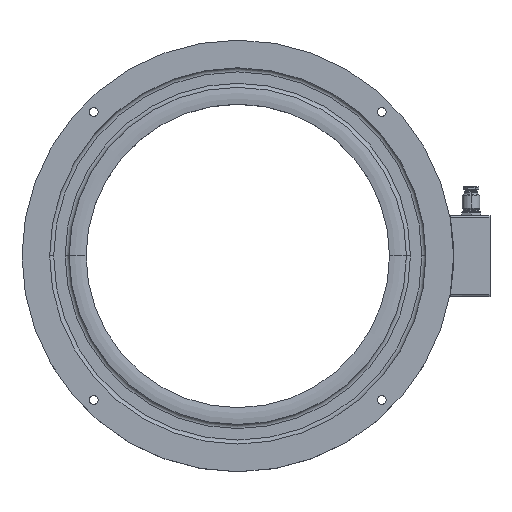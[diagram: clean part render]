
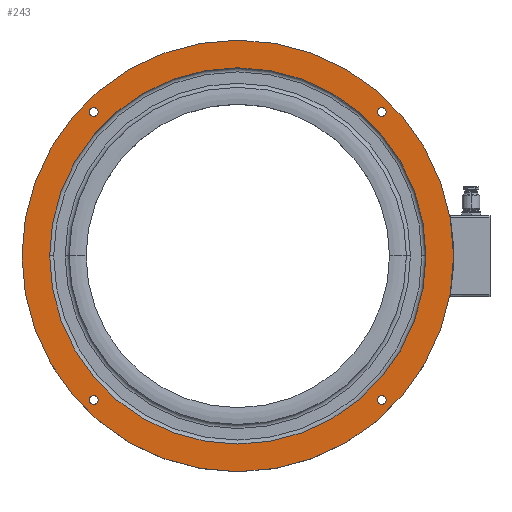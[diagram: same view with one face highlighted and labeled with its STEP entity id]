
A CAD part, top view. The second image highlights one B-rep face of the part: STEP entity #243.
In plain terms, the highlighted planar face has unit normal (0, 0, 1) as drawn and (0, 1, 0) by its records, which use the part's own axes.
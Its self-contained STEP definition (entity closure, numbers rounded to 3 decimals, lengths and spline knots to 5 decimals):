
#243=ADVANCED_FACE('0:66',(#510,#511,#512,#513,#514,#515),#516,.T.);
#510=FACE_OUTER_BOUND('',#841,.T.);
#511=FACE_BOUND('',#842,.T.);
#512=FACE_BOUND('',#843,.T.);
#513=FACE_BOUND('',#844,.T.);
#514=FACE_BOUND('',#845,.T.);
#515=FACE_BOUND('',#846,.T.);
#516=PLANE('',#847);
#841=EDGE_LOOP('',(#1270,#1271));
#842=EDGE_LOOP('',(#1272,#1273));
#843=EDGE_LOOP('',(#1274,#1275));
#844=EDGE_LOOP('',(#1276,#1277));
#845=EDGE_LOOP('',(#1278,#1279));
#846=EDGE_LOOP('',(#1280,#1281));
#847=AXIS2_PLACEMENT_3D('',#1282,#1283,#1284);
#1270=ORIENTED_EDGE('',*,*,#1944,.F.);
#1271=ORIENTED_EDGE('',*,*,#1999,.F.);
#1272=ORIENTED_EDGE('',*,*,#1964,.F.);
#1273=ORIENTED_EDGE('',*,*,#1990,.F.);
#1274=ORIENTED_EDGE('',*,*,#1969,.F.);
#1275=ORIENTED_EDGE('',*,*,#1987,.F.);
#1276=ORIENTED_EDGE('',*,*,#1974,.F.);
#1277=ORIENTED_EDGE('',*,*,#1984,.F.);
#1278=ORIENTED_EDGE('',*,*,#1979,.F.);
#1279=ORIENTED_EDGE('',*,*,#1981,.F.);
#1280=ORIENTED_EDGE('',*,*,#1927,.T.);
#1281=ORIENTED_EDGE('',*,*,#2006,.T.);
#1282=CARTESIAN_POINT('',(0.1395,0.05,0.0));
#1283=DIRECTION('',(0.,1.0,0.));
#1284=DIRECTION('',(1.0,0.0,0.));
#1927=EDGE_CURVE('0:132',#2247,#2244,#2248,.T.);
#1944=EDGE_CURVE('0:120',#2274,#2270,#2276,.T.);
#1964=EDGE_CURVE('0:99',#2306,#2302,#2308,.F.);
#1969=EDGE_CURVE('0:93',#2315,#2311,#2317,.F.);
#1974=EDGE_CURVE('0:87',#2324,#2320,#2326,.F.);
#1979=EDGE_CURVE('0:81',#2333,#2329,#2335,.F.);
#1981=EDGE_CURVE('',#2329,#2333,#2337,.F.);
#1984=EDGE_CURVE('',#2320,#2324,#2340,.F.);
#1987=EDGE_CURVE('',#2311,#2315,#2343,.F.);
#1990=EDGE_CURVE('',#2302,#2306,#2346,.F.);
#1999=EDGE_CURVE('',#2270,#2274,#2355,.T.);
#2006=EDGE_CURVE('',#2244,#2247,#2362,.T.);
#2244=VERTEX_POINT('',#2692);
#2247=VERTEX_POINT('',#2695);
#2248=CIRCLE('',#2696,0.1395);
#2270=VERTEX_POINT('',#2720);
#2274=VERTEX_POINT('NONE',#2725);
#2276=CIRCLE('',#2728,0.16);
#2302=VERTEX_POINT('',#2758);
#2306=VERTEX_POINT('NONE',#2763);
#2308=CIRCLE('',#2766,0.00325);
#2311=VERTEX_POINT('',#2769);
#2315=VERTEX_POINT('NONE',#2774);
#2317=CIRCLE('',#2777,0.00325);
#2320=VERTEX_POINT('',#2780);
#2324=VERTEX_POINT('NONE',#2785);
#2326=CIRCLE('',#2788,0.00325);
#2329=VERTEX_POINT('',#2791);
#2333=VERTEX_POINT('NONE',#2796);
#2335=CIRCLE('',#2799,0.00325);
#2337=CIRCLE('',#2801,0.00325);
#2340=CIRCLE('',#2804,0.00325);
#2343=CIRCLE('',#2807,0.00325);
#2346=CIRCLE('',#2810,0.00325);
#2355=CIRCLE('',#2819,0.16);
#2362=CIRCLE('',#2826,0.1395);
#2692=CARTESIAN_POINT('',(-0.1395,0.05,0.));
#2695=CARTESIAN_POINT('',(0.1395,0.05,0.));
#2696=AXIS2_PLACEMENT_3D('',#3282,#3283,#3284);
#2720=CARTESIAN_POINT('',(0.16,0.05,0.));
#2725=CARTESIAN_POINT('',(-0.16,0.05,0.));
#2728=AXIS2_PLACEMENT_3D('',#3316,#3317,#3318);
#2758=CARTESIAN_POINT('',(-0.10677,0.05,0.11002));
#2763=CARTESIAN_POINT('',(-0.10677,0.05,0.10352));
#2766=AXIS2_PLACEMENT_3D('',#3352,#3353,#3354);
#2769=CARTESIAN_POINT('',(0.10677,0.05,0.11002));
#2774=CARTESIAN_POINT('',(0.10677,0.05,0.10352));
#2777=AXIS2_PLACEMENT_3D('',#3360,#3361,#3362);
#2780=CARTESIAN_POINT('',(0.10677,0.05,-0.10352));
#2785=CARTESIAN_POINT('',(0.10677,0.05,-0.11002));
#2788=AXIS2_PLACEMENT_3D('',#3368,#3369,#3370);
#2791=CARTESIAN_POINT('',(-0.10677,0.05,-0.10352));
#2796=CARTESIAN_POINT('',(-0.10677,0.05,-0.11002));
#2799=AXIS2_PLACEMENT_3D('',#3376,#3377,#3378);
#2801=AXIS2_PLACEMENT_3D('',#3379,#3380,#3381);
#2804=AXIS2_PLACEMENT_3D('',#3385,#3386,#3387);
#2807=AXIS2_PLACEMENT_3D('',#3391,#3392,#3393);
#2810=AXIS2_PLACEMENT_3D('',#3397,#3398,#3399);
#2819=AXIS2_PLACEMENT_3D('',#3412,#3413,#3414);
#2826=AXIS2_PLACEMENT_3D('',#3424,#3425,#3426);
#3282=CARTESIAN_POINT('',(0.,0.05,0.0));
#3283=DIRECTION('',(0.0,-1.0,0.0));
#3284=DIRECTION('',(1.0,0.0,0.0));
#3316=CARTESIAN_POINT('',(0.,0.05,0.0));
#3317=DIRECTION('',(0.0,-1.0,0.0));
#3318=DIRECTION('',(1.0,0.0,0.0));
#3352=CARTESIAN_POINT('',(-0.10677,0.05,0.10677));
#3353=DIRECTION('',(0.,-1.0,0.));
#3354=DIRECTION('',(0.,0.,1.0));
#3360=CARTESIAN_POINT('',(0.10677,0.05,0.10677));
#3361=DIRECTION('',(0.,-1.0,0.));
#3362=DIRECTION('',(0.,0.,1.0));
#3368=CARTESIAN_POINT('',(0.10677,0.05,-0.10677));
#3369=DIRECTION('',(0.,-1.0,0.));
#3370=DIRECTION('',(0.,0.,1.0));
#3376=CARTESIAN_POINT('',(-0.10677,0.05,-0.10677));
#3377=DIRECTION('',(0.,-1.0,0.));
#3378=DIRECTION('',(0.,0.,1.0));
#3379=CARTESIAN_POINT('',(-0.10677,0.05,-0.10677));
#3380=DIRECTION('',(0.,-1.0,0.));
#3381=DIRECTION('',(0.,0.,1.0));
#3385=CARTESIAN_POINT('',(0.10677,0.05,-0.10677));
#3386=DIRECTION('',(0.,-1.0,0.));
#3387=DIRECTION('',(0.,0.,1.0));
#3391=CARTESIAN_POINT('',(0.10677,0.05,0.10677));
#3392=DIRECTION('',(0.,-1.0,0.));
#3393=DIRECTION('',(0.,0.,1.0));
#3397=CARTESIAN_POINT('',(-0.10677,0.05,0.10677));
#3398=DIRECTION('',(0.,-1.0,0.));
#3399=DIRECTION('',(0.,0.,1.0));
#3412=CARTESIAN_POINT('',(0.,0.05,0.0));
#3413=DIRECTION('',(0.0,-1.0,0.0));
#3414=DIRECTION('',(1.0,0.0,0.0));
#3424=CARTESIAN_POINT('',(0.,0.05,0.0));
#3425=DIRECTION('',(0.0,-1.0,0.0));
#3426=DIRECTION('',(1.0,0.0,0.0));
